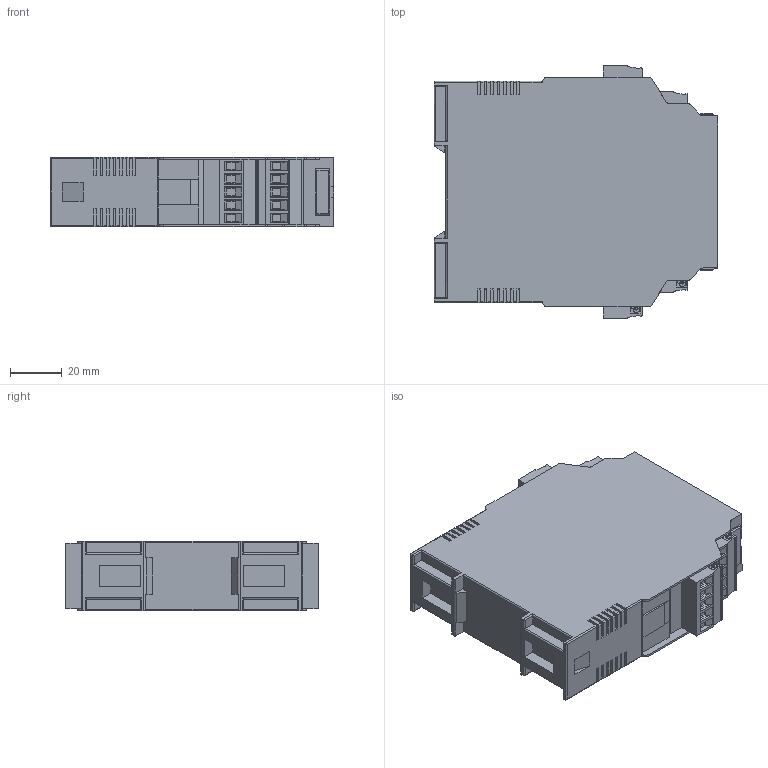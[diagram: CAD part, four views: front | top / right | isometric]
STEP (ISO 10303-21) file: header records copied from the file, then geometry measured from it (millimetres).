
FILE_DESCRIPTION((''),'2;1');
FILE_NAME('C:\TurckZip\IM-27mm-Housing.stp','2011-04-27T13:20:36',('IKOROL'),(''),'Autodesk Inventor 2010','Autodesk Inventor 2010','');
FILE_SCHEMA(('CONFIG_CONTROL_DESIGN'));
Length unit declared in the file: millimetre
Products named in the file (1): Part15
Bounding box: 110.15 x 98 x 27 mm (x, y, z)
Volume: 222054.1 mm3; surface area: 46099.6 mm2
Topology: 1 solids, 6 shells, 2261 faces, 5973 edges, 3890 vertices
Faces by surface type: plane 1504, cylinder 478, bspline 279
Full cylindrical faces by diameter (mm): 4.042 x1, 5 x1
Entity records: 74212 total; most frequent: CARTESIAN_POINT 16731, ORIENTED_EDGE 11942, DIRECTION 10543, EDGE_CURVE 5971, VECTOR 4281, LINE 4281, VERTEX_POINT 3890, AXIS2_PLACEMENT_3D 3131
